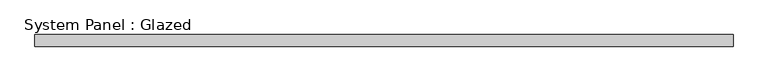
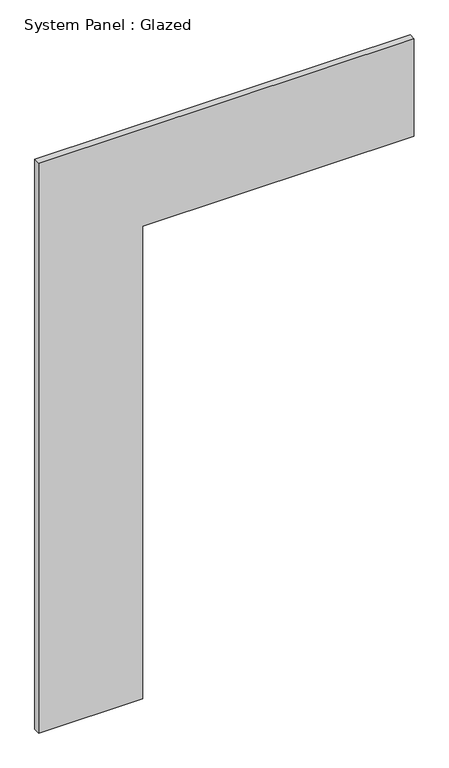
"""IFC4 building model written with IfcOpenShell, lengths in millimetres: plate geometry, System Panel : Glazed."""

from ifc_helpers import new_model, si_unit, frame, origin, place, context, project, spatial, polyline, outline, extrude, source, transform, mapped, element, save


def system_panel_glazed_db9244dd(model_context):
    return source(origin(), model_context, "Body", "SweptSolid", [
        extrude(outline(polyline([(0.0, -725.0), (0.0, -324.2217822), (1927.153105, -324.2217822), (1927.153105, 725.0), (2325.0, 725.0), (2325.0, -725.0), (0.0, -725.0)])), frame((0.0, 24.5, 0.0), z_axis=(0.0, 1.0, 0.0), x_axis=(0.0, 0.0, 1.0)), (0.0, 0.0, 1.0), 25.0),
    ])


if __name__ == "__main__":
    model = new_model("IFC4")
    model_context = context("Model", 3, world=origin())
    ifc_project = project(units=[si_unit("LENGTHUNIT", "METRE", prefix="MILLI")], contexts=[model_context])
    site = spatial("IfcSite", under=ifc_project)
    building = spatial("IfcBuilding", under=site)
    placement = place(None, origin())
    system_panel_glazed_shape = system_panel_glazed_db9244dd(model_context)
    element("IfcPlate", 1, ObjectType="System Panel : Glazed", at=placement, inside=building, context=model_context, shape_type="MappedRepresentation", body=[
        mapped(system_panel_glazed_shape, transform((0.0, 0.0, 0.0), x_axis=(1.0, 0.0, 0.0), y_axis=(0.0, 1.0, 0.0), z_axis=(0.0, 0.0, 1.0))),
    ])
    save(model, "model.ifc")
